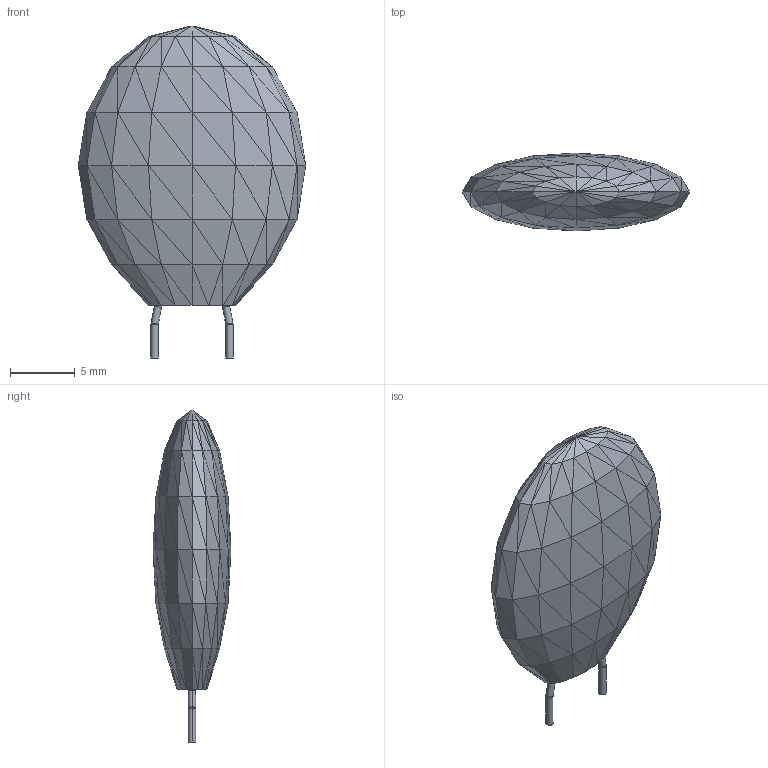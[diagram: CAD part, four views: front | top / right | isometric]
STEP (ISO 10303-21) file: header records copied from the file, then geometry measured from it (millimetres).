
FILE_DESCRIPTION(('STEP AP214'),'1');
FILE_NAME('MF72-001.5D15_CTM','2026-05-06T03:53:08',(''),(''),'','','');
FILE_SCHEMA(('AUTOMOTIVE_DESIGN'));
Length unit declared in the file: millimetre
Products named in the file (1): product
Bounding box: 17.5 x 6 x 25.54 mm (x, y, z)
Volume: 1127.2 mm3; surface area: 710.1 mm2
Topology: 3 solids, 3 shells, 248 faces, 380 edges, 138 vertices
Faces by surface type: plane 228, cylinder 12, torus 8
Entity records: 5016 total; most frequent: DIRECTION 910, ORIENTED_EDGE 760, CARTESIAN_POINT 403, EDGE_CURVE 380, LINE 348, VECTOR 348, AXIS2_PLACEMENT_3D 281, STYLED_ITEM 248
